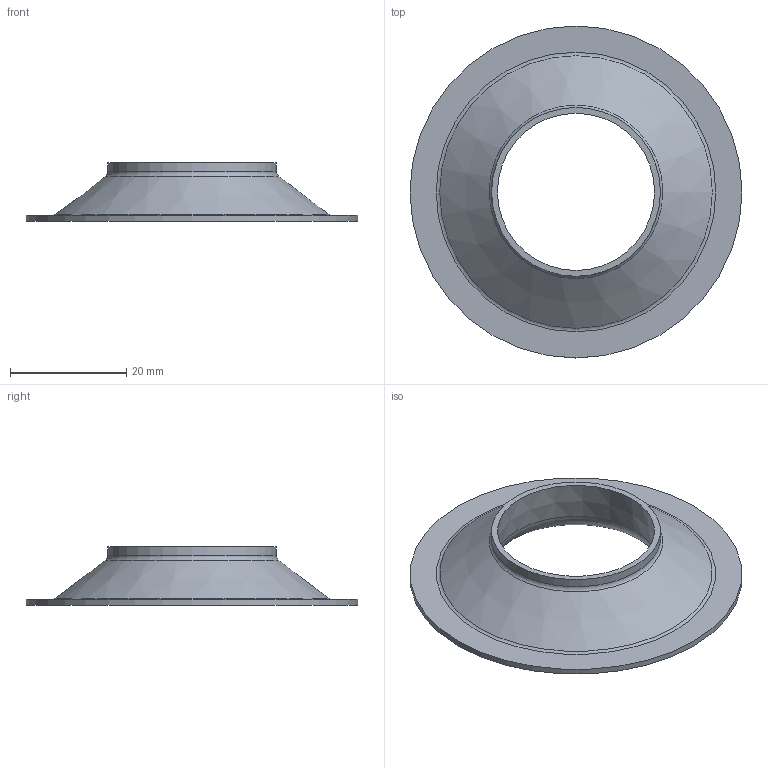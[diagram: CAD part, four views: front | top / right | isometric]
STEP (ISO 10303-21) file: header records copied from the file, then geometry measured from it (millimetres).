
FILE_DESCRIPTION( ('This file contains a STEP AP42 implementation' ,'as created by ZW3D STEP Interface translator.') ,'2;1' );
FILE_NAME( 'KM-27.stp' ,'26 5 8. 95225', (''), ('ZWCAD Software Co.'), 'Version 1.0', 'ZW3D to STEP translator', '' );
FILE_SCHEMA(('AP242_MANAGED_MODEL_BASED_3D_ENGINEERING_MIM_LF { 1 0 10303 442 1 1 4 }'));
Length unit declared in the file: millimetre
Products named in the file (1): 0
Bounding box: 57 x 57 x 10 mm (x, y, z)
Volume: 5801.8 mm3; surface area: 5313.5 mm2
Topology: 1 solids, 1 shells, 10 faces, 17 edges, 10 vertices
Faces by surface type: plane 3, torus 3, cylinder 2, cone 2
Full cylindrical faces by diameter (mm): 29 x1, 57 x1
Entity records: 276 total; most frequent: DIRECTION 52, CARTESIAN_POINT 38, ORIENTED_EDGE 34, AXIS2_PLACEMENT_3D 24, EDGE_CURVE 17, CIRCLE 13, EDGE_LOOP 13, VERTEX_POINT 10
